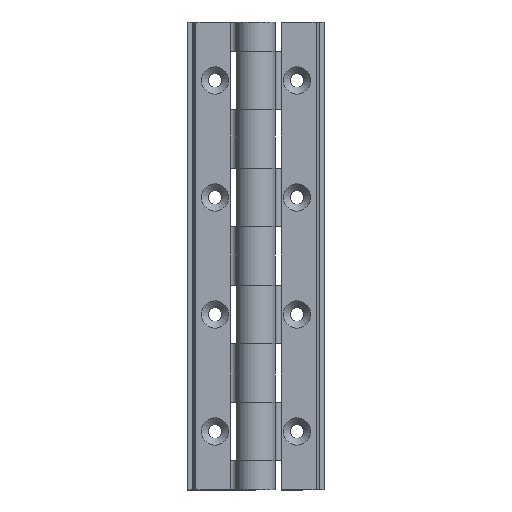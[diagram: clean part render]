
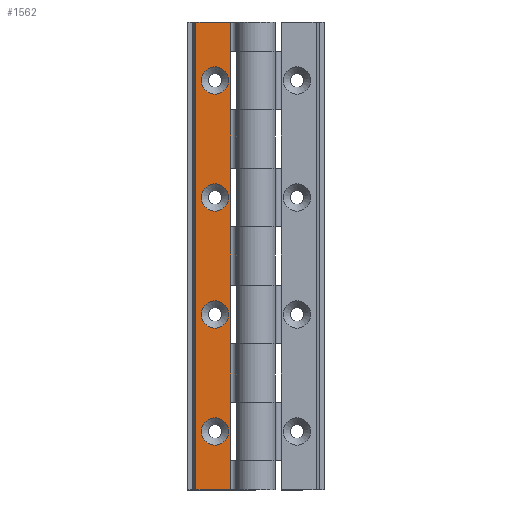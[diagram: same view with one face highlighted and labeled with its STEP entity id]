
A CAD part, top view. The second image highlights one B-rep face of the part: STEP entity #1562.
In plain terms, the highlighted planar face has unit normal (0, 0, 1) as drawn and (0, -1, 0) by its records, which use the part's own axes.
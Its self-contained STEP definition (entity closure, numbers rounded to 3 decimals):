
#56=LINE('',#2393,#175);
#65=LINE('',#2439,#184);
#66=LINE('',#2441,#185);
#69=LINE('',#2455,#188);
#71=LINE('',#2466,#190);
#72=LINE('',#2488,#191);
#73=LINE('',#2490,#192);
#74=LINE('',#2492,#193);
#75=LINE('',#2493,#194);
#76=LINE('',#2494,#195);
#77=LINE('',#2495,#196);
#78=LINE('',#2496,#197);
#175=VECTOR('',#1895,1000.);
#184=VECTOR('',#1942,1000.);
#185=VECTOR('',#1945,1000.);
#188=VECTOR('',#1956,1000.);
#190=VECTOR('',#1966,1000.);
#191=VECTOR('',#1993,1000.);
#192=VECTOR('',#1994,1000.);
#193=VECTOR('',#1995,1000.);
#194=VECTOR('',#1996,1000.);
#195=VECTOR('',#1997,1000.);
#196=VECTOR('',#1998,1000.);
#197=VECTOR('',#1999,1000.);
#401=ORIENTED_EDGE('',*,*,#803,.T.);
#402=ORIENTED_EDGE('',*,*,#801,.T.);
#403=ORIENTED_EDGE('',*,*,#799,.T.);
#404=ORIENTED_EDGE('',*,*,#797,.T.);
#405=ORIENTED_EDGE('',*,*,#805,.T.);
#406=ORIENTED_EDGE('',*,*,#763,.T.);
#407=ORIENTED_EDGE('',*,*,#806,.T.);
#408=ORIENTED_EDGE('',*,*,#807,.T.);
#409=ORIENTED_EDGE('',*,*,#796,.T.);
#410=ORIENTED_EDGE('',*,*,#808,.F.);
#411=ORIENTED_EDGE('',*,*,#791,.T.);
#412=ORIENTED_EDGE('',*,*,#809,.T.);
#413=ORIENTED_EDGE('',*,*,#785,.T.);
#414=ORIENTED_EDGE('',*,*,#810,.T.);
#415=ORIENTED_EDGE('',*,*,#784,.F.);
#416=ORIENTED_EDGE('',*,*,#811,.F.);
#763=EDGE_CURVE('',#966,#969,#56,.F.);
#784=EDGE_CURVE('',#987,#986,#65,.T.);
#785=EDGE_CURVE('',#988,#989,#66,.F.);
#791=EDGE_CURVE('',#995,#994,#69,.F.);
#796=EDGE_CURVE('',#997,#999,#71,.F.);
#797=EDGE_CURVE('',#1000,#1000,#1131,.F.);
#799=EDGE_CURVE('',#1002,#1002,#1133,.F.);
#801=EDGE_CURVE('',#1004,#1004,#1135,.F.);
#803=EDGE_CURVE('',#1006,#1006,#1137,.F.);
#805=EDGE_CURVE('',#1008,#966,#72,.F.);
#806=EDGE_CURVE('',#969,#1009,#73,.F.);
#807=EDGE_CURVE('',#1009,#997,#74,.T.);
#808=EDGE_CURVE('',#995,#999,#75,.T.);
#809=EDGE_CURVE('',#994,#988,#76,.F.);
#810=EDGE_CURVE('',#989,#986,#77,.T.);
#811=EDGE_CURVE('',#1008,#987,#78,.T.);
#966=VERTEX_POINT('',#2387);
#969=VERTEX_POINT('',#2392);
#986=VERTEX_POINT('',#2436);
#987=VERTEX_POINT('',#2438);
#988=VERTEX_POINT('',#2442);
#989=VERTEX_POINT('',#2443);
#994=VERTEX_POINT('',#2454);
#995=VERTEX_POINT('',#2456);
#997=VERTEX_POINT('',#2461);
#999=VERTEX_POINT('',#2465);
#1000=VERTEX_POINT('',#2469);
#1002=VERTEX_POINT('',#2474);
#1004=VERTEX_POINT('',#2479);
#1006=VERTEX_POINT('',#2484);
#1008=VERTEX_POINT('',#2489);
#1009=VERTEX_POINT('',#2491);
#1131=CIRCLE('',#1714,3.5);
#1133=CIRCLE('',#1717,3.5);
#1135=CIRCLE('',#1720,3.5);
#1137=CIRCLE('',#1723,3.5);
#1229=EDGE_LOOP('',(#401));
#1230=EDGE_LOOP('',(#402));
#1231=EDGE_LOOP('',(#403));
#1232=EDGE_LOOP('',(#404));
#1233=EDGE_LOOP('',(#405,#406,#407,#408,#409,#410,#411,#412,#413,#414,#415,
#416));
#1380=FACE_BOUND('',#1229,.T.);
#1381=FACE_BOUND('',#1230,.T.);
#1382=FACE_BOUND('',#1231,.T.);
#1383=FACE_BOUND('',#1232,.T.);
#1384=FACE_BOUND('',#1233,.T.);
#1505=PLANE('',#1725);
#1562=ADVANCED_FACE('',(#1380,#1381,#1382,#1383,#1384),#1505,.T.);
#1714=AXIS2_PLACEMENT_3D('',#2468,#1969,#1970);
#1717=AXIS2_PLACEMENT_3D('',#2473,#1975,#1976);
#1720=AXIS2_PLACEMENT_3D('',#2478,#1981,#1982);
#1723=AXIS2_PLACEMENT_3D('',#2483,#1987,#1988);
#1725=AXIS2_PLACEMENT_3D('',#2487,#1991,#1992);
#1895=DIRECTION('',(0.,0.,-1.));
#1942=DIRECTION('',(0.,0.,1.));
#1945=DIRECTION('',(0.,0.,-1.));
#1956=DIRECTION('',(0.,0.,-1.));
#1966=DIRECTION('',(0.,0.,-1.));
#1969=DIRECTION('',(0.,-1.,0.));
#1970=DIRECTION('',(0.,0.,-1.));
#1975=DIRECTION('',(0.,-1.,0.));
#1976=DIRECTION('',(0.,0.,-1.));
#1981=DIRECTION('',(0.,-1.,0.));
#1982=DIRECTION('',(0.,0.,-1.));
#1987=DIRECTION('',(0.,-1.,0.));
#1988=DIRECTION('',(0.,0.,-1.));
#1991=DIRECTION('',(0.,-1.,0.));
#1992=DIRECTION('',(1.,0.,0.));
#1993=DIRECTION('',(0.,0.,-1.));
#1994=DIRECTION('',(0.,0.,-1.));
#1995=DIRECTION('',(0.,0.,1.));
#1996=DIRECTION('',(0.,0.,-1.));
#1997=DIRECTION('',(0.,0.,-1.));
#1998=DIRECTION('',(-1.,0.,0.));
#1999=DIRECTION('',(-1.,0.,0.));
#2387=CARTESIAN_POINT('',(-0.247,1.7,-52.5));
#2392=CARTESIAN_POINT('',(-0.247,1.7,-37.5));
#2393=CARTESIAN_POINT('',(-0.247,1.7,-15.));
#2436=CARTESIAN_POINT('',(-9.158,1.7,60.));
#2438=CARTESIAN_POINT('',(-9.158,1.7,-60.));
#2439=CARTESIAN_POINT('',(-9.158,1.7,-15.));
#2441=CARTESIAN_POINT('',(-0.247,1.7,-15.));
#2442=CARTESIAN_POINT('',(-0.247,1.7,52.5));
#2443=CARTESIAN_POINT('',(-0.247,1.7,60.));
#2454=CARTESIAN_POINT('',(-0.247,1.7,37.5));
#2455=CARTESIAN_POINT('',(-0.247,1.7,-15.));
#2456=CARTESIAN_POINT('',(-0.247,1.7,22.5));
#2461=CARTESIAN_POINT('',(-0.247,1.7,-7.5));
#2465=CARTESIAN_POINT('',(-0.247,1.7,7.5));
#2466=CARTESIAN_POINT('',(-0.247,1.7,-15.));
#2468=CARTESIAN_POINT('',(-4.25,1.7,-45.));
#2469=CARTESIAN_POINT('',(-4.25,1.7,-48.5));
#2473=CARTESIAN_POINT('',(-4.25,1.7,45.));
#2474=CARTESIAN_POINT('',(-4.25,1.7,41.5));
#2478=CARTESIAN_POINT('',(-4.25,1.7,-15.));
#2479=CARTESIAN_POINT('',(-4.25,1.7,-18.5));
#2483=CARTESIAN_POINT('',(-4.25,1.7,15.));
#2484=CARTESIAN_POINT('',(-4.25,1.7,11.5));
#2487=CARTESIAN_POINT('',(-0.231,1.7,-15.));
#2488=CARTESIAN_POINT('',(-0.247,1.7,-15.));
#2489=CARTESIAN_POINT('',(-0.247,1.7,-60.));
#2490=CARTESIAN_POINT('',(-0.247,1.7,-15.));
#2491=CARTESIAN_POINT('',(-0.247,1.7,-22.5));
#2492=CARTESIAN_POINT('',(-0.247,1.7,-15.));
#2493=CARTESIAN_POINT('',(-0.247,1.7,-15.));
#2494=CARTESIAN_POINT('',(-0.247,1.7,-15.));
#2495=CARTESIAN_POINT('',(-0.231,1.7,60.));
#2496=CARTESIAN_POINT('',(-0.25,1.7,-60.));
